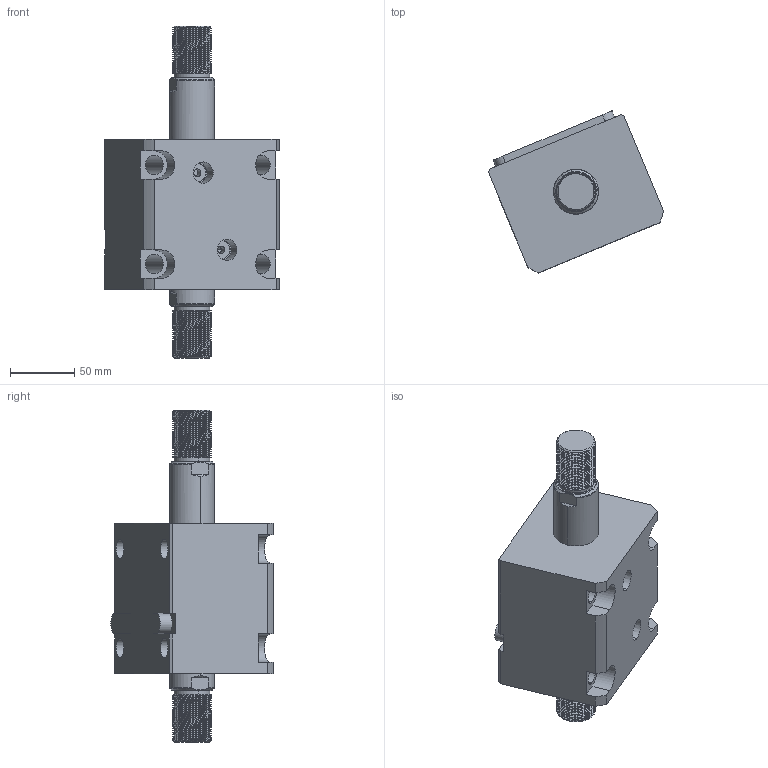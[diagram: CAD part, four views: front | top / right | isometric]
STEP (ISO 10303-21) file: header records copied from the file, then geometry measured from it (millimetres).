
FILE_DESCRIPTION (( 'STEP AP214' ), '1' );
FILE_NAME ('chtb-lw63x35w_asm.STEP', '2018-05-18T08:14:15', ( 'Windows' ), ( 'Microsoft' ), 'SwSTEP 2.0', 'SolidWorks 2015', '' );
FILE_SCHEMA (( 'AUTOMOTIVE_DESIGN' ));
Length unit declared in the file: millimetre
Products named in the file (5): CHTB-LA63PJ; CHTB-SW63X35WHSG; CHTB-LW63X35NBT; CHTB-63QG; chtb-lw63x35w_asm
Assembly tree (4 placements, depth 2):
  chtb-lw63x35w_asm
    CHTB-63QG
    CHTB-LW63X35NBT
    CHTB-SW63X35WHSG
    CHTB-LA63PJ
Bounding box: 135.77 x 126.06 x 258 mm (x, y, z)
Volume: 1143245.7 mm3; surface area: 168711 mm2
Topology: 4 solids, 4 shells, 306 faces, 883 edges, 597 vertices
Faces by surface type: cylinder 204, plane 58, bspline 16, cone 16, torus 12
Entity records: 27807 total; most frequent: CARTESIAN_POINT 20497, ORIENTED_EDGE 1758, DIRECTION 1223, EDGE_CURVE 879, VERTEX_POINT 597, AXIS2_PLACEMENT_3D 457, EDGE_LOOP 336, LINE 309
